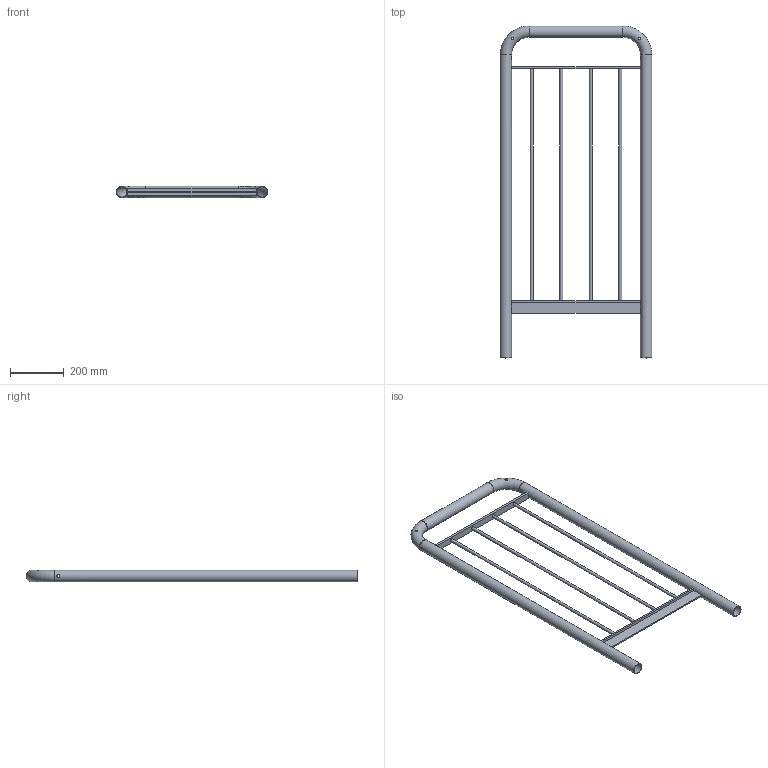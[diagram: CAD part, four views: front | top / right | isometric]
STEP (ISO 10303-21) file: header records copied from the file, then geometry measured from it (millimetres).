
FILE_DESCRIPTION((''),'2;1');
FILE_NAME('S:\Användarkataloger\AndreasA\Mina Inventor filer\Räcken\STEP\modul_bos_600-1216.stp','2010-09-07T13:30:42',('AndreasA'),(''),'Autodesk Inventor 2011','Autodesk Inventor 2011','');
FILE_SCHEMA(('AUTOMOTIVE_DESIGN { 1 0 10303 214 1 1 1 1 }'));
Length unit declared in the file: millimetre
Products named in the file (4): modul_bos_600-1216; handledare_modul_600-1216; galleri_modul_600; pls_modul_bos_600
Assembly tree (3 placements, depth 2):
  modul_bos_600-1216
    handledare_modul_600-1216
    galleri_modul_600
    pls_modul_bos_600
Bounding box: 565.4 x 1237.2 x 42.4 mm (x, y, z)
Volume: 1346644.7 mm3; surface area: 957458.8 mm2
Topology: 3 solids, 3 shells, 42 faces, 106 edges, 68 vertices
Faces by surface type: plane 20, cylinder 18, torus 4
Full cylindrical faces by diameter (mm): 10 x4, 11 x8, 38.4 x3, 42.4 x3
Entity records: 1895 total; most frequent: CARTESIAN_POINT 897, DIRECTION 174, ORIENTED_EDGE 144, EDGE_LOOP 90, EDGE_CURVE 72, AXIS2_PLACEMENT_3D 69, VERTEX_POINT 60, FACE_BOUND 48
